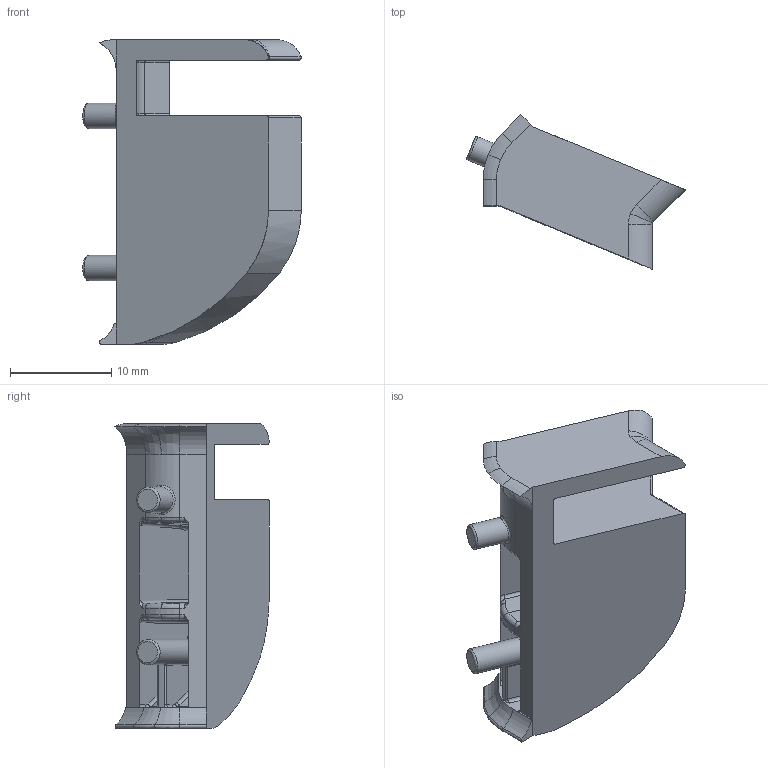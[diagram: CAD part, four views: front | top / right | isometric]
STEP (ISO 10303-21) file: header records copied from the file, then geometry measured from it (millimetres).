
FILE_DESCRIPTION (( 'STEP AP214' ), '1' );
FILE_NAME ('L15873.step', '2024-12-03T16:20:28', ( '' ), ( '' ), 'SwSTEP 2.0', 'SolidWorks 2023', '' );
FILE_SCHEMA (( 'AUTOMOTIVE_DESIGN' ));
Length unit declared in the file: millimetre
Products named in the file (1): L15873
Bounding box: 21.52 x 15.21 x 30 mm (x, y, z)
Volume: 2181.1 mm3; surface area: 2523.1 mm2
Topology: 1 solids, 1 shells, 178 faces, 485 edges, 307 vertices
Faces by surface type: bspline 73, cylinder 68, plane 36, cone 1
Full cylindrical faces by diameter (mm): 2.5 x2
Entity records: 9581 total; most frequent: CARTESIAN_POINT 5881, ORIENTED_EDGE 948, DIRECTION 495, EDGE_CURVE 474, VERTEX_POINT 303, B_SPLINE_CURVE_WITH_KNOTS 224, EDGE_LOOP 183, FACE_OUTER_BOUND 182
